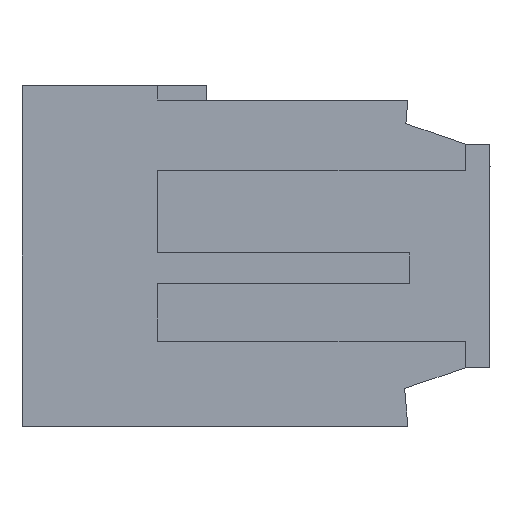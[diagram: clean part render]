
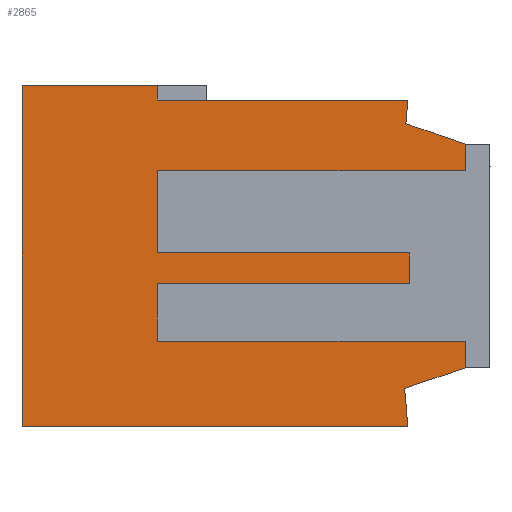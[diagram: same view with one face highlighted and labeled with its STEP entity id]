
A CAD part, left-side view. The second image highlights one B-rep face of the part: STEP entity #2865.
In plain terms, the highlighted planar face has unit normal (-1, 0, 0).
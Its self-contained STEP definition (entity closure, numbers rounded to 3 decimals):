
#2747=AXIS2_PLACEMENT_3D('Plane Axis2P3D',#2744,#2745,#2746) ;
#1011=CARTESIAN_POINT('Vertex',(-9.5,22.8,-8.3)) ;
#1014=CARTESIAN_POINT('Line Origine',(-9.5,22.8,0.)) ;
#1018=CARTESIAN_POINT('Vertex',(-9.5,22.8,8.3)) ;
#1647=CARTESIAN_POINT('Line Origine',(-9.5,19.5,8.3)) ;
#1651=CARTESIAN_POINT('Vertex',(-9.5,16.2,8.3)) ;
#1666=CARTESIAN_POINT('Line Origine',(-9.5,16.2,7.95)) ;
#1670=CARTESIAN_POINT('Vertex',(-9.5,16.2,7.6)) ;
#2699=CARTESIAN_POINT('Vertex',(-9.5,4.,-8.3)) ;
#2702=CARTESIAN_POINT('Line Origine',(-9.5,13.4,-8.3)) ;
#2744=CARTESIAN_POINT('Axis2P3D Location',(-9.5,23.232,8.632)) ;
#2749=CARTESIAN_POINT('Line Origine',(-9.5,16.2,2.15)) ;
#2753=CARTESIAN_POINT('Vertex',(-9.5,16.2,0.15)) ;
#2755=CARTESIAN_POINT('Vertex',(-9.5,16.2,4.15)) ;
#2758=CARTESIAN_POINT('Line Origine',(-9.5,8.7,4.15)) ;
#2762=CARTESIAN_POINT('Vertex',(-9.5,1.2,4.15)) ;
#2765=CARTESIAN_POINT('Line Origine',(-9.5,1.2,4.8)) ;
#2769=CARTESIAN_POINT('Vertex',(-9.5,1.2,5.45)) ;
#2772=CARTESIAN_POINT('Line Origine',(-9.5,2.65,5.95)) ;
#2776=CARTESIAN_POINT('Vertex',(-9.5,4.101,6.45)) ;
#2779=CARTESIAN_POINT('Line Origine',(-9.5,4.05,7.025)) ;
#2783=CARTESIAN_POINT('Vertex',(-9.5,4.,7.6)) ;
#2786=CARTESIAN_POINT('Line Origine',(-9.5,10.1,7.6)) ;
#2791=CARTESIAN_POINT('Line Origine',(-9.5,4.081,-7.375)) ;
#2795=CARTESIAN_POINT('Vertex',(-9.5,4.162,-6.45)) ;
#2798=CARTESIAN_POINT('Line Origine',(-9.5,2.681,-5.95)) ;
#2802=CARTESIAN_POINT('Vertex',(-9.5,1.2,-5.45)) ;
#2805=CARTESIAN_POINT('Line Origine',(-9.5,1.2,-4.8)) ;
#2809=CARTESIAN_POINT('Vertex',(-9.5,1.2,-4.15)) ;
#2812=CARTESIAN_POINT('Line Origine',(-9.5,8.7,-4.15)) ;
#2816=CARTESIAN_POINT('Vertex',(-9.5,16.2,-4.15)) ;
#2819=CARTESIAN_POINT('Line Origine',(-9.5,16.2,-2.75)) ;
#2823=CARTESIAN_POINT('Vertex',(-9.5,16.2,-1.35)) ;
#2826=CARTESIAN_POINT('Line Origine',(-9.5,10.05,-1.35)) ;
#2830=CARTESIAN_POINT('Vertex',(-9.5,3.9,-1.35)) ;
#2833=CARTESIAN_POINT('Line Origine',(-9.5,3.9,-0.6)) ;
#2837=CARTESIAN_POINT('Vertex',(-9.5,3.9,0.15)) ;
#2840=CARTESIAN_POINT('Line Origine',(-9.5,10.05,0.15)) ;
#1015=DIRECTION('Vector Direction',(0.,0.,-1.)) ;
#1648=DIRECTION('Vector Direction',(0.,1.,0.)) ;
#1667=DIRECTION('Vector Direction',(0.,0.,1.)) ;
#2703=DIRECTION('Vector Direction',(0.,-1.,0.)) ;
#2745=DIRECTION('Axis2P3D Direction',(-1.,-0.,-0.)) ;
#2746=DIRECTION('Axis2P3D XDirection',(0.,0.,-1.)) ;
#2750=DIRECTION('Vector Direction',(0.,0.,1.)) ;
#2759=DIRECTION('Vector Direction',(0.,-1.,0.)) ;
#2766=DIRECTION('Vector Direction',(0.,0.,1.)) ;
#2773=DIRECTION('Vector Direction',(0.,0.945,0.326)) ;
#2780=DIRECTION('Vector Direction',(0.,-0.087,0.996)) ;
#2787=DIRECTION('Vector Direction',(0.,1.,0.)) ;
#2792=DIRECTION('Vector Direction',(0.,0.087,0.996)) ;
#2799=DIRECTION('Vector Direction',(0.,-0.947,0.32)) ;
#2806=DIRECTION('Vector Direction',(0.,0.,1.)) ;
#2813=DIRECTION('Vector Direction',(0.,1.,0.)) ;
#2820=DIRECTION('Vector Direction',(0.,0.,1.)) ;
#2827=DIRECTION('Vector Direction',(0.,-1.,0.)) ;
#2834=DIRECTION('Vector Direction',(0.,0.,1.)) ;
#2841=DIRECTION('Vector Direction',(0.,1.,0.)) ;
#1016=VECTOR('Line Direction',#1015,1.) ;
#1649=VECTOR('Line Direction',#1648,1.) ;
#1668=VECTOR('Line Direction',#1667,1.) ;
#2704=VECTOR('Line Direction',#2703,1.) ;
#2751=VECTOR('Line Direction',#2750,1.) ;
#2760=VECTOR('Line Direction',#2759,1.) ;
#2767=VECTOR('Line Direction',#2766,1.) ;
#2774=VECTOR('Line Direction',#2773,1.) ;
#2781=VECTOR('Line Direction',#2780,1.) ;
#2788=VECTOR('Line Direction',#2787,1.) ;
#2793=VECTOR('Line Direction',#2792,1.) ;
#2800=VECTOR('Line Direction',#2799,1.) ;
#2807=VECTOR('Line Direction',#2806,1.) ;
#2814=VECTOR('Line Direction',#2813,1.) ;
#2821=VECTOR('Line Direction',#2820,1.) ;
#2828=VECTOR('Line Direction',#2827,1.) ;
#2835=VECTOR('Line Direction',#2834,1.) ;
#2842=VECTOR('Line Direction',#2841,1.) ;
#2846=ORIENTED_EDGE('',*,*,#2757,.T.) ;
#2847=ORIENTED_EDGE('',*,*,#2764,.T.) ;
#2848=ORIENTED_EDGE('',*,*,#2771,.T.) ;
#2849=ORIENTED_EDGE('',*,*,#2778,.T.) ;
#2850=ORIENTED_EDGE('',*,*,#2785,.T.) ;
#2851=ORIENTED_EDGE('',*,*,#2790,.T.) ;
#2852=ORIENTED_EDGE('',*,*,#1672,.T.) ;
#2853=ORIENTED_EDGE('',*,*,#1653,.T.) ;
#2854=ORIENTED_EDGE('',*,*,#1020,.T.) ;
#2855=ORIENTED_EDGE('',*,*,#2706,.T.) ;
#2856=ORIENTED_EDGE('',*,*,#2797,.T.) ;
#2857=ORIENTED_EDGE('',*,*,#2804,.T.) ;
#2858=ORIENTED_EDGE('',*,*,#2811,.T.) ;
#2859=ORIENTED_EDGE('',*,*,#2818,.T.) ;
#2860=ORIENTED_EDGE('',*,*,#2825,.T.) ;
#2861=ORIENTED_EDGE('',*,*,#2832,.T.) ;
#2862=ORIENTED_EDGE('',*,*,#2839,.T.) ;
#2863=ORIENTED_EDGE('',*,*,#2844,.T.) ;
#2865=ADVANCED_FACE('MANIFOLD_SOLID_BREP #33',(#2864),#2748,.T.) ;
#1020=EDGE_CURVE('',#1019,#1012,#1017,.T.) ;
#1653=EDGE_CURVE('',#1652,#1019,#1650,.T.) ;
#1672=EDGE_CURVE('',#1671,#1652,#1669,.T.) ;
#2706=EDGE_CURVE('',#1012,#2700,#2705,.T.) ;
#2757=EDGE_CURVE('',#2754,#2756,#2752,.T.) ;
#2764=EDGE_CURVE('',#2756,#2763,#2761,.T.) ;
#2771=EDGE_CURVE('',#2763,#2770,#2768,.T.) ;
#2778=EDGE_CURVE('',#2770,#2777,#2775,.T.) ;
#2785=EDGE_CURVE('',#2777,#2784,#2782,.T.) ;
#2790=EDGE_CURVE('',#2784,#1671,#2789,.T.) ;
#2797=EDGE_CURVE('',#2700,#2796,#2794,.T.) ;
#2804=EDGE_CURVE('',#2796,#2803,#2801,.T.) ;
#2811=EDGE_CURVE('',#2803,#2810,#2808,.T.) ;
#2818=EDGE_CURVE('',#2810,#2817,#2815,.T.) ;
#2825=EDGE_CURVE('',#2817,#2824,#2822,.T.) ;
#2832=EDGE_CURVE('',#2824,#2831,#2829,.T.) ;
#2839=EDGE_CURVE('',#2831,#2838,#2836,.T.) ;
#2844=EDGE_CURVE('',#2838,#2754,#2843,.T.) ;
#2845=EDGE_LOOP('',(#2846,#2847,#2848,#2849,#2850,#2851,#2852,#2853,#2854,#2855,#2856,#2857,#2858,#2859,#2860,#2861,#2862,#2863)) ;
#2864=FACE_OUTER_BOUND('',#2845,.T.) ;
#1017=LINE('Line',#1014,#1016) ;
#1650=LINE('Line',#1647,#1649) ;
#1669=LINE('Line',#1666,#1668) ;
#2705=LINE('Line',#2702,#2704) ;
#2752=LINE('Line',#2749,#2751) ;
#2761=LINE('Line',#2758,#2760) ;
#2768=LINE('Line',#2765,#2767) ;
#2775=LINE('Line',#2772,#2774) ;
#2782=LINE('Line',#2779,#2781) ;
#2789=LINE('Line',#2786,#2788) ;
#2794=LINE('Line',#2791,#2793) ;
#2801=LINE('Line',#2798,#2800) ;
#2808=LINE('Line',#2805,#2807) ;
#2815=LINE('Line',#2812,#2814) ;
#2822=LINE('Line',#2819,#2821) ;
#2829=LINE('Line',#2826,#2828) ;
#2836=LINE('Line',#2833,#2835) ;
#2843=LINE('Line',#2840,#2842) ;
#2748=PLANE('',#2747) ;
#1012=VERTEX_POINT('',#1011) ;
#1019=VERTEX_POINT('',#1018) ;
#1652=VERTEX_POINT('',#1651) ;
#1671=VERTEX_POINT('',#1670) ;
#2700=VERTEX_POINT('',#2699) ;
#2754=VERTEX_POINT('',#2753) ;
#2756=VERTEX_POINT('',#2755) ;
#2763=VERTEX_POINT('',#2762) ;
#2770=VERTEX_POINT('',#2769) ;
#2777=VERTEX_POINT('',#2776) ;
#2784=VERTEX_POINT('',#2783) ;
#2796=VERTEX_POINT('',#2795) ;
#2803=VERTEX_POINT('',#2802) ;
#2810=VERTEX_POINT('',#2809) ;
#2817=VERTEX_POINT('',#2816) ;
#2824=VERTEX_POINT('',#2823) ;
#2831=VERTEX_POINT('',#2830) ;
#2838=VERTEX_POINT('',#2837) ;
